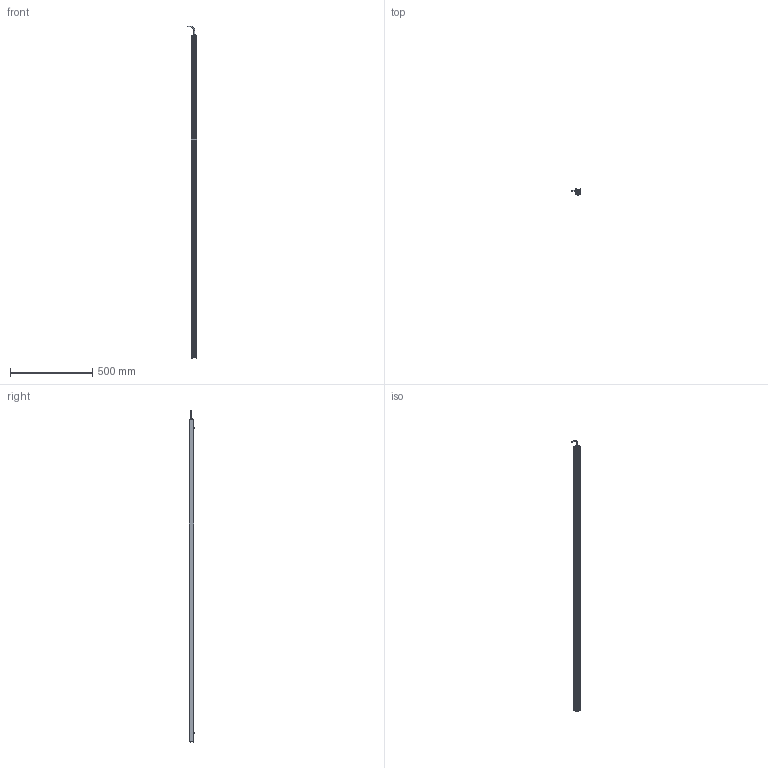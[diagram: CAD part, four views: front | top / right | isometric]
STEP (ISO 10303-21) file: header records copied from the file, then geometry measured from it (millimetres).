
FILE_DESCRIPTION (( 'STEP AP214' ), '1' );
FILE_NAME ('AL150XXXX_AL150450.stp', '2021-04-29T15:42:06', ( '' ), ( '' ), 'SwSTEP 2.0', 'SolidWorks 2018', '' );
FILE_SCHEMA (( 'AUTOMOTIVE_DESIGN' ));
Length unit declared in the file: inch
Products named in the file (12): 116-02-007; 093145_93701A253; Part1^AL150XXXX; HN-M6_90592A016; 116-02-006; 1157 (no strap); 150-01-005-XXX_150-01-005-450; AL150XXXX_AL150450; 150-03-006-XXXX_150-03-006-450; CHM6x8_91460A312; Part2^AL150XXXX; 092408_TRUNCATED
Assembly tree (18 placements, depth 2):
  Part1^AL150XXXX
  AL150XXXX_AL150450
    150-01-005-XXX_150-01-005-450
    116-02-006
    093145_93701A253  x8
    HN-M6_90592A016  x2
    CHM6x8_91460A312  x2
    150-03-006-XXXX_150-03-006-450
    116-02-007
    1157 (no strap)
    092408_TRUNCATED
  Part2^AL150XXXX
Bounding box: 60.68 x 33.84 x 2019.22 mm (x, y, z)
Volume: 606987.5 mm3; surface area: 640231.8 mm2
Topology: 26 solids, 26 shells, 1306 faces, 3436 edges, 2127 vertices
Faces by surface type: cylinder 805, cone 249, plane 153, torus 59, bspline 32, sphere 8
Entity records: 18285 total; most frequent: CARTESIAN_POINT 6069, ORIENTED_EDGE 2496, DIRECTION 2311, EDGE_CURVE 1248, AXIS2_PLACEMENT_3D 881, VERTEX_POINT 800, VECTOR 549, LINE 549
